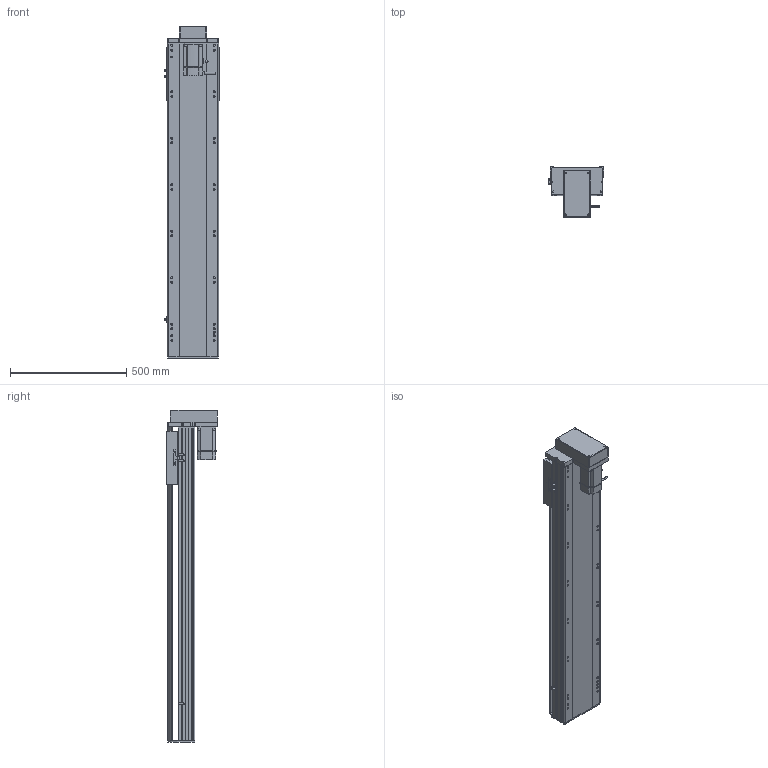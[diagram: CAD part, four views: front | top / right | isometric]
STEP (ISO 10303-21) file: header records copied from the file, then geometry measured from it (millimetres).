
FILE_DESCRIPTION (( 'STEP AP214' ), '1' );
FILE_NAME ('RTH22-XX-1050-M-M75-C4.STEP', '2025-10-24T11:12:09', ( 'Microsoft' ), ( 'Microsoft' ), 'SwSTEP 2.0', 'SolidWorks 2018', '' );
FILE_SCHEMA (( 'AUTOMOTIVE_DESIGN' ));
Length unit declared in the file: millimetre
Products named in the file (10): N_750W萇儂^RTH22-XX-XX-M-M75-C4; RTH22-XX-1050-M-M75-C4; N_RTH22-M-008-P75萇儂啣^RTH22-XX-XX-M-M75-C4; N_RTH22-GY-001耜裔^RTH22-XX-XX-M-M75-C4; N_RTH22-L-004-SFS25賑釱^RTH22-XX-XX-M-M75-C4; N_RTH22-L-011菁釱^RTH22-XX-XX-M-M75-C4; N_RTH22-M-018裔赽^RTH22-XX-XX-M-M75-C4; N_RTH22-GY-013外置感应片^RTH22-XX-XX-M-M75-C4; N_RTH22-M-007奻裔^RTH22-XX-XX-M-M75-C4; N_OMRON EE-SX672 传感器^RTH22-XX-XX-M-M75-C4
Assembly tree (11 placements, depth 2):
  RTH22-XX-1050-M-M75-C4
    N_RTH22-L-011菁釱^RTH22-XX-XX-M-M75-C4
    N_RTH22-GY-001耜裔^RTH22-XX-XX-M-M75-C4
    N_750W萇儂^RTH22-XX-XX-M-M75-C4
    N_RTH22-M-008-P75萇儂啣^RTH22-XX-XX-M-M75-C4
    N_RTH22-M-007奻裔^RTH22-XX-XX-M-M75-C4
    N_RTH22-M-018裔赽^RTH22-XX-XX-M-M75-C4
    N_OMRON EE-SX672 传感器^RTH22-XX-XX-M-M75-C4  x3
    N_RTH22-GY-013外置感应片^RTH22-XX-XX-M-M75-C4
    N_RTH22-L-004-SFS25賑釱^RTH22-XX-XX-M-M75-C4
Bounding box: 238.5 x 218.5 x 1429.7 mm (x, y, z)
Volume: 19417005.8 mm3; surface area: 2125344.1 mm2
Topology: 11 solids, 11 shells, 1641 faces, 4480 edges, 2885 vertices
Faces by surface type: plane 809, cylinder 487, bspline 279, cone 66
Entity records: 41657 total; most frequent: CARTESIAN_POINT 12512, ORIENTED_EDGE 5920, DIRECTION 5614, EDGE_CURVE 2960, VERTEX_POINT 1921, AXIS2_PLACEMENT_3D 1895, LINE 1824, VECTOR 1824
